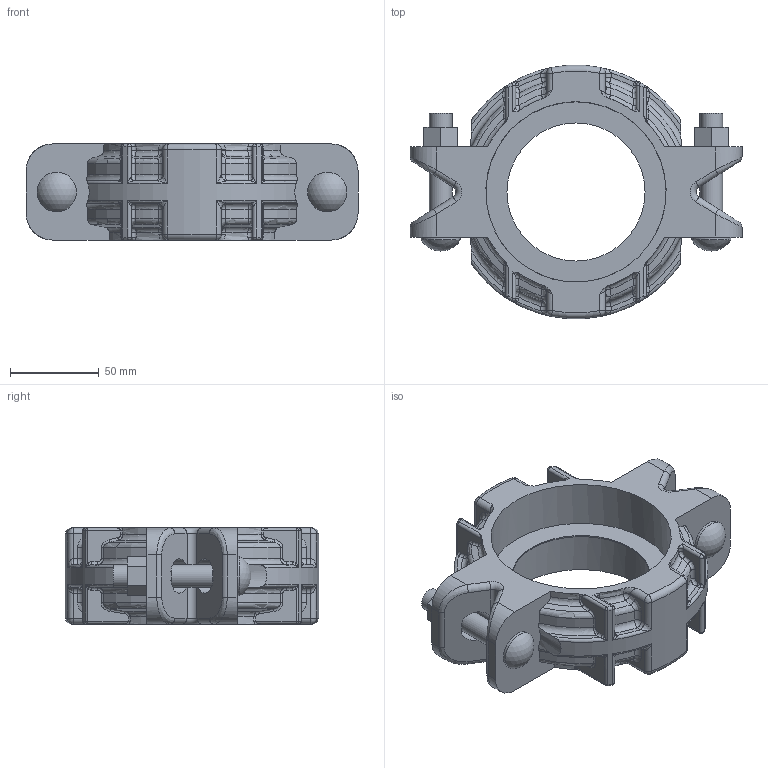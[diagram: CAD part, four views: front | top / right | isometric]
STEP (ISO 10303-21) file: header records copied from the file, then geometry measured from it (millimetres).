
FILE_DESCRIPTION(/* description */ ('VIC COUPLING FLEXIBLE STYLE XL77','CAx-IF Rec.Pracs.---Representation and Presentation of Product Manufacturing Information (PMI)---4.0---2014-10-13'),/* implementation_level */ '2;1');
FILE_NAME(/* name */ 'C:\Users\kkamble\AppData\Roaming\Autodesk\ApplicationPlugins\Back Up\Victaulic_IPS-XL_Coupling Flexible Transition_Style XL77 (XLGxOGS)\Victaulic_IPS-XL_Coupling Flexible Transition_Style XL77 (XLGxOGS)_3 (80).stp',/* time_stamp */ '2020-08-05T13:48:07+05:00',/* author */ ('jheald'),/* organization */ ('Victaulic'),/* preprocessor_version */ 'ST-DEVELOPER v17.2',/* originating_system */ 'Autodesk Inventor 2019',/* authorisation */ '');
FILE_SCHEMA (('AP242_MANAGED_MODEL_BASED_3D_ENGINEERING_MIM_LF { 1 0 10303 442 1 1 4 }'));
Length unit declared in the file: inch
Products named in the file (1): XL77-03.0
Bounding box: 187.02 x 142.7 x 54.11 mm (x, y, z)
Volume: 462672.4 mm3; surface area: 84092.3 mm2
Topology: 1 solids, 1 shells, 579 faces, 1394 edges, 801 vertices
Faces by surface type: cylinder 197, bspline 144, torus 96, plane 84, sphere 42, cone 16
Full cylindrical faces by diameter (mm): 12.7 x4, 22.225 x2, 77.787 x1, 88.9 x1, 101.6 x1
Entity records: 22555 total; most frequent: CARTESIAN_POINT 9275, ORIENTED_EDGE 2740, DIRECTION 2525, EDGE_CURVE 1370, AXIS2_PLACEMENT_3D 1062, VERTEX_POINT 801, EDGE_LOOP 593, CIRCLE 589
